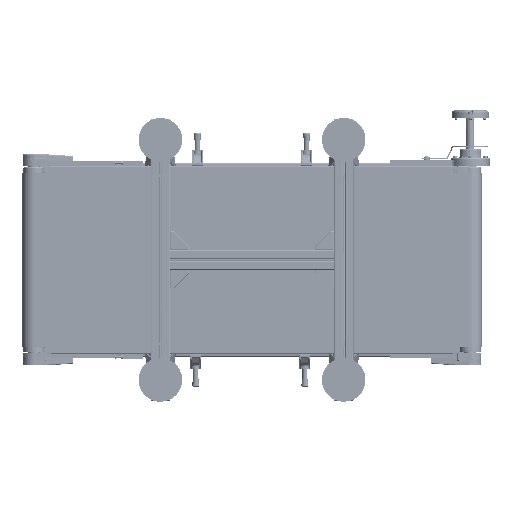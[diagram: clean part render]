
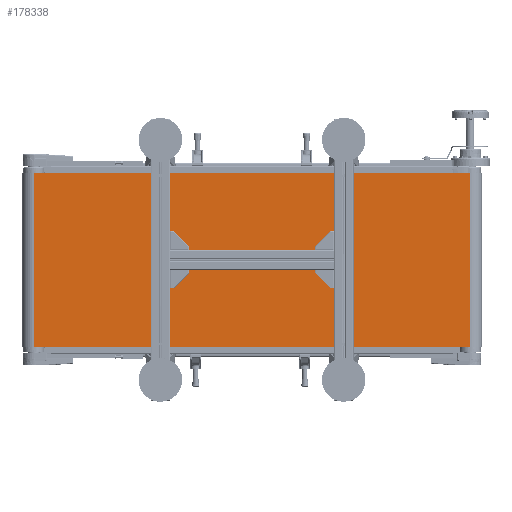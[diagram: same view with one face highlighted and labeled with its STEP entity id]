
A CAD part, front view. The second image highlights one B-rep face of the part: STEP entity #178338.
In plain terms, the highlighted planar face has unit normal (0, -1, 0).
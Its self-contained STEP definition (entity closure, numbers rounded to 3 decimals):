
#10871 = CARTESIAN_POINT ( 'NONE',  ( 500., -27., 200. ) ) ;
#12136 = PLANE ( 'NONE',  #68494 ) ;
#12897 = VERTEX_POINT ( 'NONE', #53415 ) ;
#21859 = LINE ( 'NONE', #147420, #51629 ) ;
#23531 = CARTESIAN_POINT ( 'NONE',  ( -500., -27., 200. ) ) ;
#34012 = VERTEX_POINT ( 'NONE', #205524 ) ;
#41158 = LINE ( 'NONE', #23531, #98446 ) ;
#42670 = VERTEX_POINT ( 'NONE', #45677 ) ;
#45677 = CARTESIAN_POINT ( 'NONE',  ( 500., -27., -200. ) ) ;
#51629 = VECTOR ( 'NONE', #217844, 1000. ) ;
#53415 = CARTESIAN_POINT ( 'NONE',  ( 500., -27., 200. ) ) ;
#67981 = EDGE_CURVE ( 'NONE', #218586, #34012, #21859, .T. ) ;
#68494 = AXIS2_PLACEMENT_3D ( 'NONE', #121235, #104790, #195126 ) ;
#75303 = DIRECTION ( 'NONE',  ( 1., 0., 0. ) ) ;
#76177 = ORIENTED_EDGE ( 'NONE', *, *, #98610, .F. ) ;
#85495 = ORIENTED_EDGE ( 'NONE', *, *, #67981, .T. ) ;
#95057 = DIRECTION ( 'NONE',  ( 1., 0., 0. ) ) ;
#98446 = VECTOR ( 'NONE', #95057, 1000. ) ;
#98610 = EDGE_CURVE ( 'NONE', #218586, #12897, #41158, .T. ) ;
#104790 = DIRECTION ( 'NONE',  ( 0., 1., 0. ) ) ;
#111681 = CARTESIAN_POINT ( 'NONE',  ( -500., -27., -200. ) ) ;
#117529 = EDGE_LOOP ( 'NONE', ( #185402, #217384, #76177, #85495 ) ) ;
#121235 = CARTESIAN_POINT ( 'NONE',  ( -500., -27., 200. ) ) ;
#122761 = CARTESIAN_POINT ( 'NONE',  ( -500., -27., 200. ) ) ;
#135241 = DIRECTION ( 'NONE',  ( 0., 0., -1. ) ) ;
#142452 = VECTOR ( 'NONE', #75303, 1000. ) ;
#146919 = LINE ( 'NONE', #111681, #142452 ) ;
#147420 = CARTESIAN_POINT ( 'NONE',  ( -500., -27., 200. ) ) ;
#171619 = EDGE_CURVE ( 'NONE', #12897, #42670, #227930, .T. ) ;
#176351 = FACE_OUTER_BOUND ( 'NONE', #117529, .T. ) ;
#178338 = ADVANCED_FACE ( 'NONE', ( #176351 ), #12136, .F. ) ;
#185402 = ORIENTED_EDGE ( 'NONE', *, *, #220965, .T. ) ;
#195126 = DIRECTION ( 'NONE',  ( 0., 0., 1. ) ) ;
#203760 = VECTOR ( 'NONE', #135241, 1000. ) ;
#205524 = CARTESIAN_POINT ( 'NONE',  ( -500., -27., -200. ) ) ;
#217384 = ORIENTED_EDGE ( 'NONE', *, *, #171619, .F. ) ;
#217844 = DIRECTION ( 'NONE',  ( 0., 0., -1. ) ) ;
#218586 = VERTEX_POINT ( 'NONE', #122761 ) ;
#220965 = EDGE_CURVE ( 'NONE', #34012, #42670, #146919, .T. ) ;
#227930 = LINE ( 'NONE', #10871, #203760 ) ;
